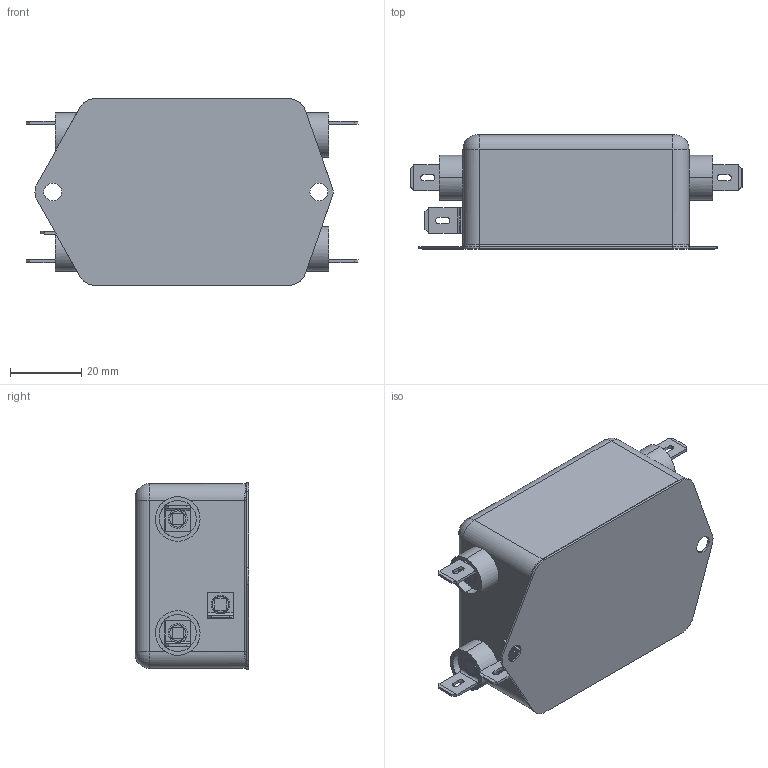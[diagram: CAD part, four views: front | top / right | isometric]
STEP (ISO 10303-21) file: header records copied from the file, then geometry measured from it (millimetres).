
FILE_DESCRIPTION (( 'STEP AP214' ), '1' );
FILE_NAME ('ES5 F-TYPE Modeling.STEP', '2015-02-17T07:53:54', ( 'SEC' ), ( 'Samsung Electronics' ), 'SwSTEP 2.0', 'SolidWorks 2008', '' );
FILE_SCHEMA (( 'AUTOMOTIVE_DESIGN' ));
Length unit declared in the file: millimetre
Products named in the file (3): FASTON TAB #250 A_ル遽; ES5-F Type case_ル遽; ES5 F-TYPE Modeling
Assembly tree (6 placements, depth 2):
  ES5 F-TYPE Modeling
    FASTON TAB #250 A_ル遽  x5
    ES5-F Type case_ル遽
Bounding box: 93.2 x 32 x 52.4 mm (x, y, z)
Volume: 102364.5 mm3; surface area: 20292.2 mm2
Topology: 1 solids, 13 shells, 296 faces, 704 edges, 434 vertices
Faces by surface type: plane 187, cylinder 89, bspline 12, torus 8
Entity records: 5289 total; most frequent: CARTESIAN_POINT 1109, DIRECTION 792, ORIENTED_EDGE 702, EDGE_CURVE 352, AXIS2_PLACEMENT_3D 307, VERTEX_POINT 218, VECTOR 178, LINE 178
